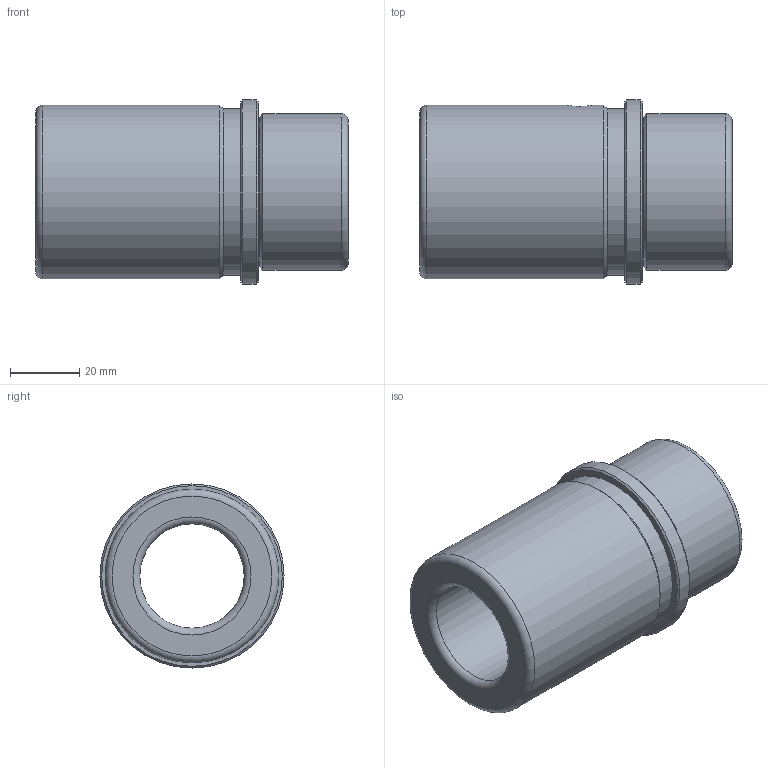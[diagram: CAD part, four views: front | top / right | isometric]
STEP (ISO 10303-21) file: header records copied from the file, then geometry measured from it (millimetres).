
FILE_DESCRIPTION( ( 'STEP AP214' ), '1' );
FILE_NAME( 'p:/temp/worker_32/temp/exporttempdir_5668_14_9PWnI/format_0/WZ - 4055 30 x 90.stp', '2020-12-04T19:46:42', ( 'License CC BY-ND 4.0' ), ( 'CADENAS' ), ' ', 'PARTsolutions', ' ' );
FILE_SCHEMA( ( 'AUTOMOTIVE_DESIGN { 1 0 10303 214 1 1 1 1 }' ) );
Length unit declared in the file: millimetre
Products named in the file (1): _WZ - 4055 30 x 90
Bounding box: 90 x 53 x 53 mm (x, y, z)
Volume: 102353.7 mm3; surface area: 25464.9 mm2
Topology: 1 solids, 1 shells, 21 faces, 38 edges, 22 vertices
Faces by surface type: cylinder 7, cone 5, plane 5, torus 4
Full cylindrical faces by diameter (mm): 8.376 x1, 30 x1, 43 x1, 45 x1, 48 x1, 50 x1, 53 x1
Entity records: 750 total; most frequent: CARTESIAN_POINT 196, DIRECTION 84, EDGE_LOOP 44, ORIENTED_EDGE 44, AXIS2_PLACEMENT_3D 42, FACE_OUTER_BOUND 32, EDGE_CURVE 22, VERTEX_POINT 22
